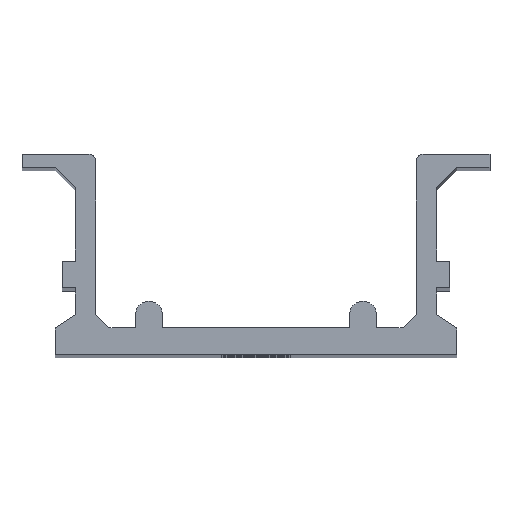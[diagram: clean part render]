
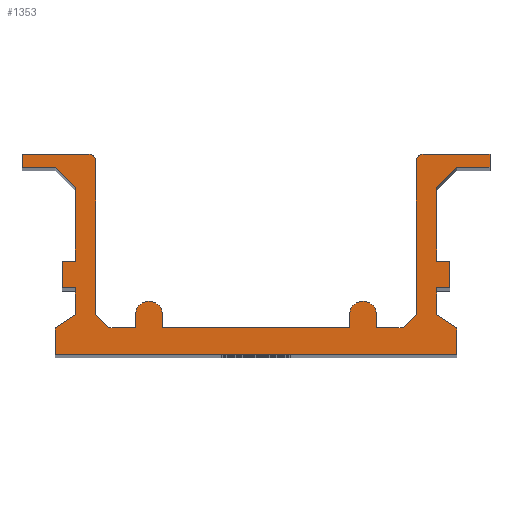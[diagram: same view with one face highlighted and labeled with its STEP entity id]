
A CAD part, top view. The second image highlights one B-rep face of the part: STEP entity #1353.
In plain terms, the highlighted planar face has unit normal (0, 0, 1).
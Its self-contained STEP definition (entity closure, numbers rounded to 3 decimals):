
#49=CIRCLE('',#1465,0.5);
#50=CIRCLE('',#1466,0.5);
#51=CIRCLE('',#1467,1.);
#52=CIRCLE('',#1468,1.);
#103=FACE_OUTER_BOUND('',#171,.T.);
#171=EDGE_LOOP('',(#967,#968,#969,#970,#971,#972,#973,#974,#975,#976,#977,
#978,#979,#980,#981,#982,#983,#984,#985,#986,#987,#988,#989,#990,#991,#992,
#993,#994,#995,#996,#997,#998,#999,#1000,#1001,#1002,#1003,#1004));
#273=LINE('',#2024,#435);
#274=LINE('',#2026,#436);
#275=LINE('',#2028,#437);
#276=LINE('',#2032,#438);
#277=LINE('',#2034,#439);
#278=LINE('',#2036,#440);
#279=LINE('',#2038,#441);
#280=LINE('',#2040,#442);
#281=LINE('',#2042,#443);
#282=LINE('',#2044,#444);
#283=LINE('',#2046,#445);
#284=LINE('',#2048,#446);
#285=LINE('',#2050,#447);
#286=LINE('',#2052,#448);
#287=LINE('',#2054,#449);
#288=LINE('',#2056,#450);
#289=LINE('',#2058,#451);
#290=LINE('',#2060,#452);
#291=LINE('',#2062,#453);
#292=LINE('',#2064,#454);
#293=LINE('',#2066,#455);
#294=LINE('',#2068,#456);
#295=LINE('',#2070,#457);
#296=LINE('',#2072,#458);
#297=LINE('',#2074,#459);
#298=LINE('',#2076,#460);
#299=LINE('',#2080,#461);
#300=LINE('',#2082,#462);
#301=LINE('',#2084,#463);
#302=LINE('',#2086,#464);
#303=LINE('',#2090,#465);
#304=LINE('',#2092,#466);
#305=LINE('',#2094,#467);
#306=LINE('',#2097,#468);
#435=VECTOR('',#1652,10.);
#436=VECTOR('',#1653,10.);
#437=VECTOR('',#1654,10.);
#438=VECTOR('',#1657,10.);
#439=VECTOR('',#1658,10.);
#440=VECTOR('',#1659,10.);
#441=VECTOR('',#1660,10.);
#442=VECTOR('',#1661,10.);
#443=VECTOR('',#1662,10.);
#444=VECTOR('',#1663,10.);
#445=VECTOR('',#1664,10.);
#446=VECTOR('',#1665,10.);
#447=VECTOR('',#1666,10.);
#448=VECTOR('',#1667,10.);
#449=VECTOR('',#1668,10.);
#450=VECTOR('',#1669,10.);
#451=VECTOR('',#1670,10.);
#452=VECTOR('',#1671,10.);
#453=VECTOR('',#1672,10.);
#454=VECTOR('',#1673,10.);
#455=VECTOR('',#1674,10.);
#456=VECTOR('',#1675,10.);
#457=VECTOR('',#1676,10.);
#458=VECTOR('',#1677,10.);
#459=VECTOR('',#1678,10.);
#460=VECTOR('',#1679,10.);
#461=VECTOR('',#1682,10.);
#462=VECTOR('',#1683,10.);
#463=VECTOR('',#1684,10.);
#464=VECTOR('',#1685,10.);
#465=VECTOR('',#1688,10.);
#466=VECTOR('',#1689,10.);
#467=VECTOR('',#1690,10.);
#468=VECTOR('',#1693,10.);
#597=VERTEX_POINT('',#2022);
#598=VERTEX_POINT('',#2023);
#599=VERTEX_POINT('',#2025);
#600=VERTEX_POINT('',#2027);
#601=VERTEX_POINT('',#2029);
#602=VERTEX_POINT('',#2031);
#603=VERTEX_POINT('',#2033);
#604=VERTEX_POINT('',#2035);
#605=VERTEX_POINT('',#2037);
#606=VERTEX_POINT('',#2039);
#607=VERTEX_POINT('',#2041);
#608=VERTEX_POINT('',#2043);
#609=VERTEX_POINT('',#2045);
#610=VERTEX_POINT('',#2047);
#611=VERTEX_POINT('',#2049);
#612=VERTEX_POINT('',#2051);
#613=VERTEX_POINT('',#2053);
#614=VERTEX_POINT('',#2055);
#615=VERTEX_POINT('',#2057);
#616=VERTEX_POINT('',#2059);
#617=VERTEX_POINT('',#2061);
#618=VERTEX_POINT('',#2063);
#619=VERTEX_POINT('',#2065);
#620=VERTEX_POINT('',#2067);
#621=VERTEX_POINT('',#2069);
#622=VERTEX_POINT('',#2071);
#623=VERTEX_POINT('',#2073);
#624=VERTEX_POINT('',#2075);
#625=VERTEX_POINT('',#2077);
#626=VERTEX_POINT('',#2079);
#627=VERTEX_POINT('',#2081);
#628=VERTEX_POINT('',#2083);
#629=VERTEX_POINT('',#2085);
#630=VERTEX_POINT('',#2087);
#631=VERTEX_POINT('',#2089);
#632=VERTEX_POINT('',#2091);
#633=VERTEX_POINT('',#2093);
#634=VERTEX_POINT('',#2095);
#749=EDGE_CURVE('',#597,#598,#273,.T.);
#750=EDGE_CURVE('',#598,#599,#274,.T.);
#751=EDGE_CURVE('',#599,#600,#275,.T.);
#752=EDGE_CURVE('',#600,#601,#49,.T.);
#753=EDGE_CURVE('',#601,#602,#276,.T.);
#754=EDGE_CURVE('',#602,#603,#277,.T.);
#755=EDGE_CURVE('',#603,#604,#278,.T.);
#756=EDGE_CURVE('',#604,#605,#279,.T.);
#757=EDGE_CURVE('',#605,#606,#280,.T.);
#758=EDGE_CURVE('',#606,#607,#281,.T.);
#759=EDGE_CURVE('',#607,#608,#282,.T.);
#760=EDGE_CURVE('',#608,#609,#283,.T.);
#761=EDGE_CURVE('',#609,#610,#284,.T.);
#762=EDGE_CURVE('',#610,#611,#285,.T.);
#763=EDGE_CURVE('',#611,#612,#286,.T.);
#764=EDGE_CURVE('',#612,#613,#287,.T.);
#765=EDGE_CURVE('',#613,#614,#288,.T.);
#766=EDGE_CURVE('',#614,#615,#289,.T.);
#767=EDGE_CURVE('',#615,#616,#290,.T.);
#768=EDGE_CURVE('',#616,#617,#291,.T.);
#769=EDGE_CURVE('',#617,#618,#292,.T.);
#770=EDGE_CURVE('',#618,#619,#293,.T.);
#771=EDGE_CURVE('',#619,#620,#294,.T.);
#772=EDGE_CURVE('',#620,#621,#295,.T.);
#773=EDGE_CURVE('',#621,#622,#296,.T.);
#774=EDGE_CURVE('',#622,#623,#297,.T.);
#775=EDGE_CURVE('',#623,#624,#298,.T.);
#776=EDGE_CURVE('',#624,#625,#50,.T.);
#777=EDGE_CURVE('',#625,#626,#299,.T.);
#778=EDGE_CURVE('',#626,#627,#300,.T.);
#779=EDGE_CURVE('',#627,#628,#301,.T.);
#780=EDGE_CURVE('',#628,#629,#302,.T.);
#781=EDGE_CURVE('',#629,#630,#51,.T.);
#782=EDGE_CURVE('',#630,#631,#303,.T.);
#783=EDGE_CURVE('',#631,#632,#304,.T.);
#784=EDGE_CURVE('',#632,#633,#305,.T.);
#785=EDGE_CURVE('',#633,#634,#52,.T.);
#786=EDGE_CURVE('',#634,#597,#306,.T.);
#967=ORIENTED_EDGE('',*,*,#749,.T.);
#968=ORIENTED_EDGE('',*,*,#750,.T.);
#969=ORIENTED_EDGE('',*,*,#751,.T.);
#970=ORIENTED_EDGE('',*,*,#752,.T.);
#971=ORIENTED_EDGE('',*,*,#753,.T.);
#972=ORIENTED_EDGE('',*,*,#754,.T.);
#973=ORIENTED_EDGE('',*,*,#755,.T.);
#974=ORIENTED_EDGE('',*,*,#756,.T.);
#975=ORIENTED_EDGE('',*,*,#757,.T.);
#976=ORIENTED_EDGE('',*,*,#758,.T.);
#977=ORIENTED_EDGE('',*,*,#759,.T.);
#978=ORIENTED_EDGE('',*,*,#760,.T.);
#979=ORIENTED_EDGE('',*,*,#761,.T.);
#980=ORIENTED_EDGE('',*,*,#762,.T.);
#981=ORIENTED_EDGE('',*,*,#763,.T.);
#982=ORIENTED_EDGE('',*,*,#764,.T.);
#983=ORIENTED_EDGE('',*,*,#765,.T.);
#984=ORIENTED_EDGE('',*,*,#766,.T.);
#985=ORIENTED_EDGE('',*,*,#767,.T.);
#986=ORIENTED_EDGE('',*,*,#768,.T.);
#987=ORIENTED_EDGE('',*,*,#769,.T.);
#988=ORIENTED_EDGE('',*,*,#770,.T.);
#989=ORIENTED_EDGE('',*,*,#771,.T.);
#990=ORIENTED_EDGE('',*,*,#772,.T.);
#991=ORIENTED_EDGE('',*,*,#773,.T.);
#992=ORIENTED_EDGE('',*,*,#774,.T.);
#993=ORIENTED_EDGE('',*,*,#775,.T.);
#994=ORIENTED_EDGE('',*,*,#776,.T.);
#995=ORIENTED_EDGE('',*,*,#777,.T.);
#996=ORIENTED_EDGE('',*,*,#778,.T.);
#997=ORIENTED_EDGE('',*,*,#779,.T.);
#998=ORIENTED_EDGE('',*,*,#780,.T.);
#999=ORIENTED_EDGE('',*,*,#781,.T.);
#1000=ORIENTED_EDGE('',*,*,#782,.T.);
#1001=ORIENTED_EDGE('',*,*,#783,.T.);
#1002=ORIENTED_EDGE('',*,*,#784,.T.);
#1003=ORIENTED_EDGE('',*,*,#785,.T.);
#1004=ORIENTED_EDGE('',*,*,#786,.T.);
#1293=PLANE('',#1464);
#1353=ADVANCED_FACE('',(#103),#1293,.T.);
#1464=AXIS2_PLACEMENT_3D('',#2021,#1650,#1651);
#1465=AXIS2_PLACEMENT_3D('',#2030,#1655,#1656);
#1466=AXIS2_PLACEMENT_3D('',#2078,#1680,#1681);
#1467=AXIS2_PLACEMENT_3D('',#2088,#1686,#1687);
#1468=AXIS2_PLACEMENT_3D('',#2096,#1691,#1692);
#1650=DIRECTION('center_axis',(0.,0.,1.));
#1651=DIRECTION('ref_axis',(1.,0.,0.));
#1652=DIRECTION('',(-1.,0.,0.));
#1653=DIRECTION('',(-0.707,0.707,0.));
#1654=DIRECTION('',(0.,1.,0.));
#1655=DIRECTION('center_axis',(0.,0.,1.));
#1656=DIRECTION('ref_axis',(1.,0.,0.));
#1657=DIRECTION('',(-1.,0.,0.));
#1658=DIRECTION('',(0.,-1.,0.));
#1659=DIRECTION('',(1.,0.,0.));
#1660=DIRECTION('',(0.707,-0.707,0.));
#1661=DIRECTION('',(0.,-1.,0.));
#1662=DIRECTION('',(-1.,0.,0.));
#1663=DIRECTION('',(0.,-1.,0.));
#1664=DIRECTION('',(1.,0.,0.));
#1665=DIRECTION('',(0.,-1.,0.));
#1666=DIRECTION('',(-0.832,-0.555,0.));
#1667=DIRECTION('',(0.,-1.,0.));
#1668=DIRECTION('',(1.,0.,0.));
#1669=DIRECTION('',(0.,1.,0.));
#1670=DIRECTION('',(-0.832,0.555,0.));
#1671=DIRECTION('',(0.,1.,0.));
#1672=DIRECTION('',(1.,0.,0.));
#1673=DIRECTION('',(0.,1.,0.));
#1674=DIRECTION('',(-1.,0.,0.));
#1675=DIRECTION('',(0.,1.,0.));
#1676=DIRECTION('',(0.707,0.707,0.));
#1677=DIRECTION('',(1.,0.,0.));
#1678=DIRECTION('',(0.,1.,0.));
#1679=DIRECTION('',(-1.,0.,0.));
#1680=DIRECTION('center_axis',(0.,0.,1.));
#1681=DIRECTION('ref_axis',(0.,1.,0.));
#1682=DIRECTION('',(0.,-1.,0.));
#1683=DIRECTION('',(-0.707,-0.707,0.));
#1684=DIRECTION('',(-1.,0.,0.));
#1685=DIRECTION('',(0.,1.,0.));
#1686=DIRECTION('center_axis',(0.,0.,1.));
#1687=DIRECTION('ref_axis',(1.,0.,0.));
#1688=DIRECTION('',(0.,-1.,0.));
#1689=DIRECTION('',(-1.,0.,0.));
#1690=DIRECTION('',(0.,1.,0.));
#1691=DIRECTION('center_axis',(0.,0.,1.));
#1692=DIRECTION('ref_axis',(1.,0.,0.));
#1693=DIRECTION('',(0.,-1.,0.));
#2021=CARTESIAN_POINT('Origin',(0.,7.5,137.));
#2022=CARTESIAN_POINT('',(-9.,2.,137.));
#2023=CARTESIAN_POINT('',(-11.,2.,137.));
#2024=CARTESIAN_POINT('',(-9.,2.,137.));
#2025=CARTESIAN_POINT('',(-12.,3.,137.));
#2026=CARTESIAN_POINT('',(-11.,2.,137.));
#2027=CARTESIAN_POINT('',(-12.,14.5,137.));
#2028=CARTESIAN_POINT('',(-12.,3.,137.));
#2029=CARTESIAN_POINT('',(-12.5,15.,137.));
#2030=CARTESIAN_POINT('Origin',(-12.5,14.5,137.));
#2031=CARTESIAN_POINT('',(-17.5,15.,137.));
#2032=CARTESIAN_POINT('',(-12.5,15.,137.));
#2033=CARTESIAN_POINT('',(-17.5,14.,137.));
#2034=CARTESIAN_POINT('',(-17.5,15.,137.));
#2035=CARTESIAN_POINT('',(-15.,14.,137.));
#2036=CARTESIAN_POINT('',(-17.5,14.,137.));
#2037=CARTESIAN_POINT('',(-13.5,12.5,137.));
#2038=CARTESIAN_POINT('',(-15.,14.,137.));
#2039=CARTESIAN_POINT('',(-13.5,7.,137.));
#2040=CARTESIAN_POINT('',(-13.5,12.5,137.));
#2041=CARTESIAN_POINT('',(-14.5,7.,137.));
#2042=CARTESIAN_POINT('',(-13.5,7.,137.));
#2043=CARTESIAN_POINT('',(-14.5,5.,137.));
#2044=CARTESIAN_POINT('',(-14.5,7.,137.));
#2045=CARTESIAN_POINT('',(-13.5,5.,137.));
#2046=CARTESIAN_POINT('',(-14.5,5.,137.));
#2047=CARTESIAN_POINT('',(-13.5,3.,137.));
#2048=CARTESIAN_POINT('',(-13.5,5.,137.));
#2049=CARTESIAN_POINT('',(-15.,2.,137.));
#2050=CARTESIAN_POINT('',(-13.5,3.,137.));
#2051=CARTESIAN_POINT('',(-15.,0.,137.));
#2052=CARTESIAN_POINT('',(-15.,2.,137.));
#2053=CARTESIAN_POINT('',(15.,0.,137.));
#2054=CARTESIAN_POINT('',(-15.,0.,137.));
#2055=CARTESIAN_POINT('',(15.,2.,137.));
#2056=CARTESIAN_POINT('',(15.,0.,137.));
#2057=CARTESIAN_POINT('',(13.5,3.,137.));
#2058=CARTESIAN_POINT('',(15.,2.,137.));
#2059=CARTESIAN_POINT('',(13.5,5.,137.));
#2060=CARTESIAN_POINT('',(13.5,3.,137.));
#2061=CARTESIAN_POINT('',(14.5,5.,137.));
#2062=CARTESIAN_POINT('',(13.5,5.,137.));
#2063=CARTESIAN_POINT('',(14.5,7.,137.));
#2064=CARTESIAN_POINT('',(14.5,5.,137.));
#2065=CARTESIAN_POINT('',(13.5,7.,137.));
#2066=CARTESIAN_POINT('',(14.5,7.,137.));
#2067=CARTESIAN_POINT('',(13.5,12.5,137.));
#2068=CARTESIAN_POINT('',(13.5,7.,137.));
#2069=CARTESIAN_POINT('',(15.,14.,137.));
#2070=CARTESIAN_POINT('',(13.5,12.5,137.));
#2071=CARTESIAN_POINT('',(17.5,14.,137.));
#2072=CARTESIAN_POINT('',(15.,14.,137.));
#2073=CARTESIAN_POINT('',(17.5,15.,137.));
#2074=CARTESIAN_POINT('',(17.5,14.,137.));
#2075=CARTESIAN_POINT('',(12.5,15.,137.));
#2076=CARTESIAN_POINT('',(17.5,15.,137.));
#2077=CARTESIAN_POINT('',(12.,14.5,137.));
#2078=CARTESIAN_POINT('Origin',(12.5,14.5,137.));
#2079=CARTESIAN_POINT('',(12.,3.,137.));
#2080=CARTESIAN_POINT('',(12.,14.5,137.));
#2081=CARTESIAN_POINT('',(11.,2.,137.));
#2082=CARTESIAN_POINT('',(12.,3.,137.));
#2083=CARTESIAN_POINT('',(9.,2.,137.));
#2084=CARTESIAN_POINT('',(11.,2.,137.));
#2085=CARTESIAN_POINT('',(9.,3.,137.));
#2086=CARTESIAN_POINT('',(9.,2.,137.));
#2087=CARTESIAN_POINT('',(7.,3.,137.));
#2088=CARTESIAN_POINT('Origin',(8.,3.,137.));
#2089=CARTESIAN_POINT('',(7.,2.,137.));
#2090=CARTESIAN_POINT('',(7.,3.,137.));
#2091=CARTESIAN_POINT('',(-7.,2.,137.));
#2092=CARTESIAN_POINT('',(7.,2.,137.));
#2093=CARTESIAN_POINT('',(-7.,3.,137.));
#2094=CARTESIAN_POINT('',(-7.,2.,137.));
#2095=CARTESIAN_POINT('',(-9.,3.,137.));
#2096=CARTESIAN_POINT('Origin',(-8.,3.,137.));
#2097=CARTESIAN_POINT('',(-9.,3.,137.));
